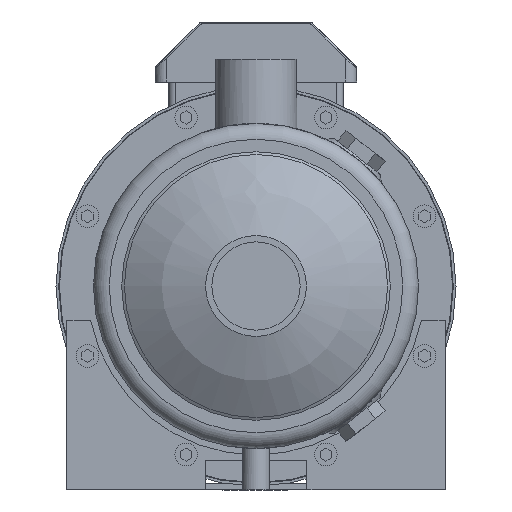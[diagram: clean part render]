
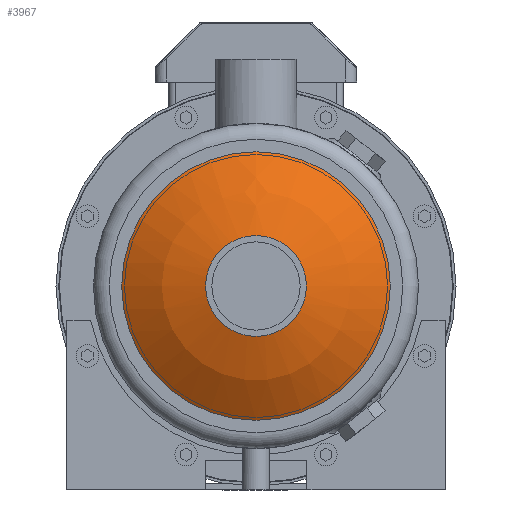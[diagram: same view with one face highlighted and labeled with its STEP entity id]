
A CAD part, left-side view. The second image highlights one B-rep face of the part: STEP entity #3967.
In plain terms, the highlighted spherical face has radius 100 mm.
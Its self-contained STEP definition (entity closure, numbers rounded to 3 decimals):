
#63=SPHERICAL_SURFACE('',#5364,100.);
#917=ORIENTED_EDGE('',*,*,#1982,.T.);
#918=ORIENTED_EDGE('',*,*,#1981,.F.);
#1981=EDGE_CURVE('',#2518,#2518,#2886,.T.);
#1982=EDGE_CURVE('',#2519,#2519,#2887,.T.);
#2518=VERTEX_POINT('',#7164);
#2519=VERTEX_POINT('',#7167);
#2886=CIRCLE('',#5363,22.25);
#2887=CIRCLE('',#5365,59.25);
#3066=EDGE_LOOP('',(#917));
#3067=EDGE_LOOP('',(#918));
#3445=FACE_BOUND('',#3066,.T.);
#3446=FACE_BOUND('',#3067,.T.);
#3967=ADVANCED_FACE('',(#3445,#3446),#63,.T.);
#5363=AXIS2_PLACEMENT_3D('',#7163,#5852,#5853);
#5364=AXIS2_PLACEMENT_3D('',#7165,#5854,#5855);
#5365=AXIS2_PLACEMENT_3D('',#7166,#5856,#5857);
#5852=DIRECTION('',(-1.,0.,0.));
#5853=DIRECTION('',(0.,0.,1.));
#5854=DIRECTION('',(-1.,0.,0.));
#5855=DIRECTION('',(0.,0.,1.));
#5856=DIRECTION('',(-1.,0.,0.));
#5857=DIRECTION('',(0.,0.,1.));
#7163=CARTESIAN_POINT('',(-163.293,0.,0.));
#7164=CARTESIAN_POINT('',(-163.293,0.,22.25));
#7165=CARTESIAN_POINT('',(-65.8,0.,0.));
#7166=CARTESIAN_POINT('',(-146.357,0.,0.));
#7167=CARTESIAN_POINT('',(-146.357,0.,59.25));
